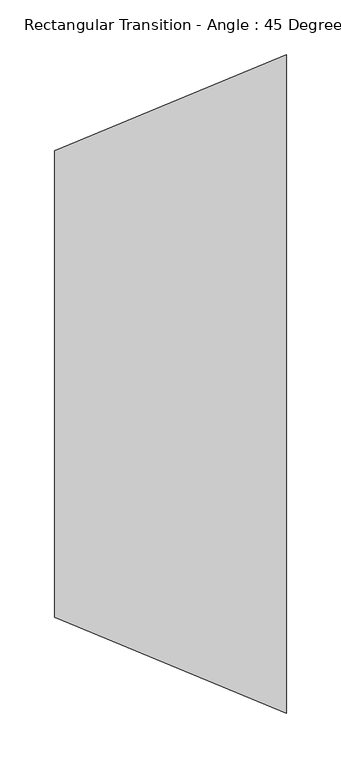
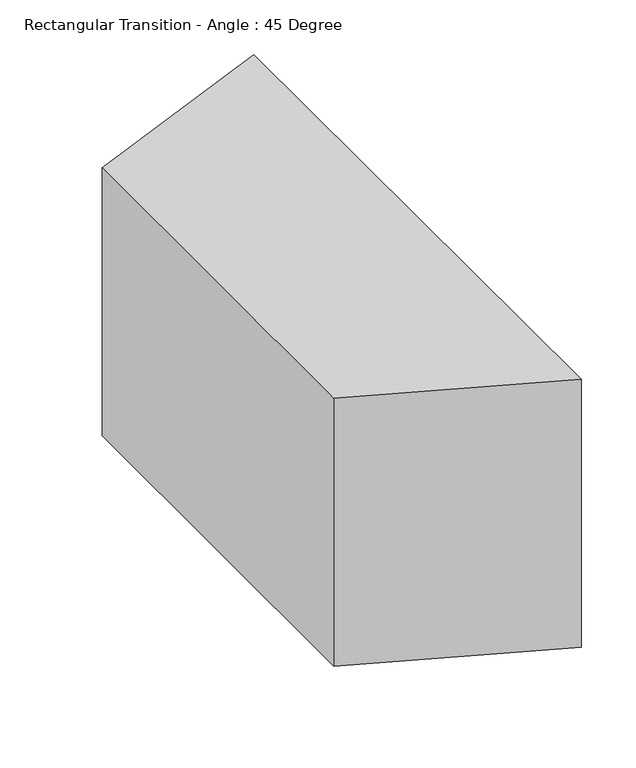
"""IFC4 building model written with IfcOpenShell, lengths in millimetres: duct fitting geometry, Rectangular Transition - Angle : 45 Degree."""

from ifc_helpers import new_model, si_unit, frame, origin, place, context, project, spatial, polyline, outline, extrude, source, transform, mapped, element, save


def rectangular_transition_angle_45_degree_a15e2a90(model_context):
    return source(origin(), model_context, "Body", "SweptSolid", [
        extrude(outline(polyline([(0.0, -212.5), (0.0, 212.5), (211.2436867, 300.0), (211.2436867, -300.0), (0.0, -212.5)])), frame((0.0, 0.0, -150.0), z_axis=(0.0, 0.0, 1.0), x_axis=(1.0, 0.0, 0.0)), (0.0, 0.0, 1.0), 300.0),
    ])


if __name__ == "__main__":
    model = new_model("IFC4")
    model_context = context("Model", 3, world=origin())
    ifc_project = project(units=[si_unit("LENGTHUNIT", "METRE", prefix="MILLI")], contexts=[model_context])
    site = spatial("IfcSite", under=ifc_project)
    building = spatial("IfcBuilding", under=site)
    placement = place(None, origin())
    rectangular_transition_angle_45_degree_shape = rectangular_transition_angle_45_degree_a15e2a90(model_context)
    element("IfcDuctFitting", 1, ObjectType="Rectangular Transition - Angle : 45 Degree", at=placement, inside=building, context=model_context, shape_type="MappedRepresentation", body=[
        mapped(rectangular_transition_angle_45_degree_shape, transform((0.0, 0.0, 0.0), x_axis=(1.0, 0.0, 0.0), y_axis=(0.0, 1.0, 0.0), z_axis=(0.0, 0.0, 1.0))),
    ])
    save(model, "model.ifc")
